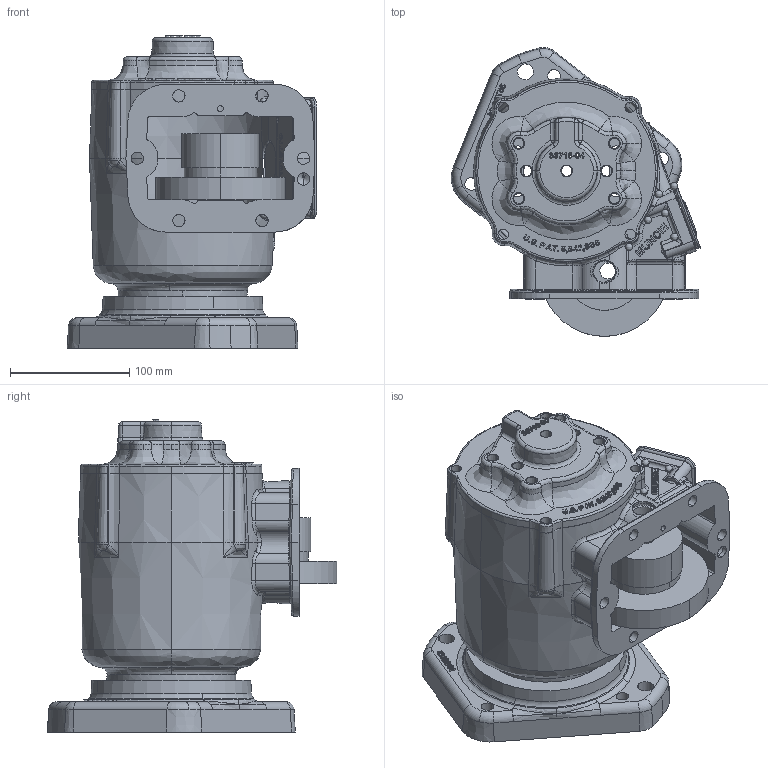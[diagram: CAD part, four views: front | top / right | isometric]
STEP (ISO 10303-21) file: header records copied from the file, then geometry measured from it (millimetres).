
FILE_DESCRIPTION (( 'STEP AP203' ), '1' );
FILE_NAME ('CS6S-XXXXX-X2EX.STEP', '2011-11-01T20:13:11', ( 'User' ), ( 'Muncie Power Products, Inc.' ), 'SwSTEP 2.0', 'SolidWorks 2011', '' );
FILE_SCHEMA (( 'CONFIG_CONTROL_DESIGN' ));
Length unit declared in the file: inch
Products named in the file (1): CS6S-XXXXX-X2EX
Bounding box: 209.44 x 242.86 x 262.09 mm (x, y, z)
Surface area: 350062.4 mm2 (no closed solid volume)
Topology: 0 solids, 17 shells, 1286 faces, 4302 edges, 2851 vertices
Faces by surface type: bspline 656, cylinder 264, plane 238, cone 111, torus 17
Entity records: 106331 total; most frequent: CARTESIAN_POINT 76194, ORIENTED_EDGE 7188, EDGE_CURVE 4234, DIRECTION 3690, VERTEX_POINT 2851, B_SPLINE_CURVE_WITH_KNOTS 2227, EDGE_LOOP 1465, LINE 1390
